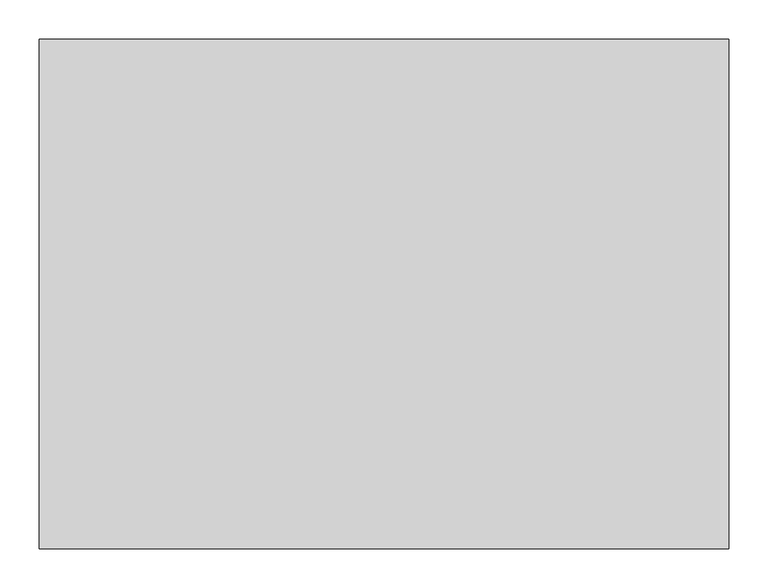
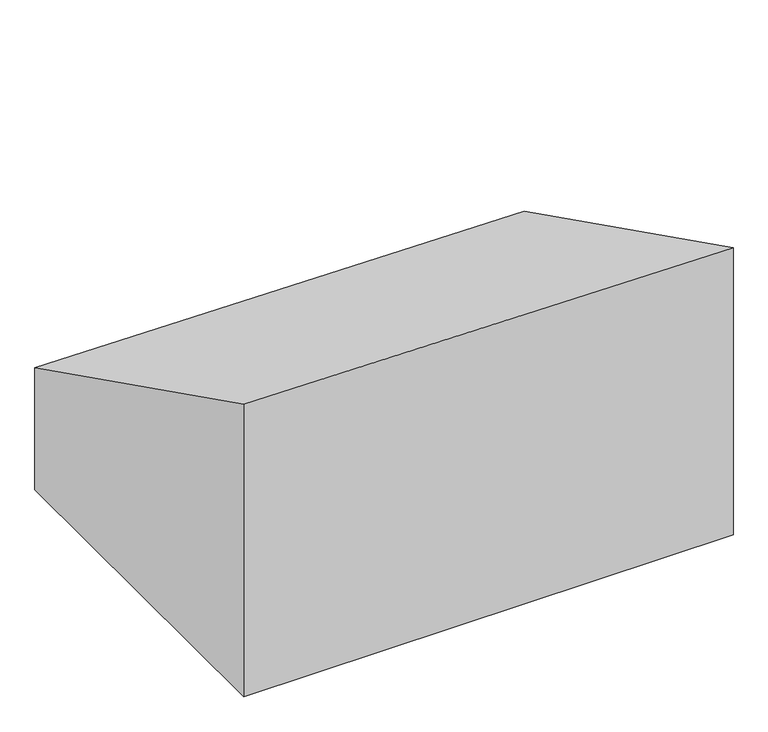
"""IFC4 building model written with IfcOpenShell, lengths in millimetres: proxy geometry, Murs caches C1a : Mus caches 1."""

import ifcopenshell
import ifcopenshell.guid

model = None  # the IFC model being written
_history = None  # IfcOwnerHistory: only IFC2X3 demands one
_inside = {}  # id of a spatial element -> (the spatial element, [elements in it])
_under = {}  # id of a project, library or spatial element -> (it, [spatial elements below it])
_declared = {}  # id of a project -> (the project, [libraries it declares])
_typed = {}  # id of a type object -> (the type object, [elements of that type])
_made_of = {}  # id of a material, layer set ... -> (it, [elements and type objects made of it])


def new_model(schema):
    """Start an empty IFC model of exactly this schema.

    Asked for "IFC4X3", IfcOpenShell would pick the latest addendum, in which some entities
    have other attributes; the version numbers below select the first issue.
    IFC2X3 requires an IfcOwnerHistory on every rooted entity: one is made here for all.
    """
    global model, _history
    if schema == "IFC4X3":
        model = ifcopenshell.file(schema_version=(4, 3, 0, 0))
    else:
        model = ifcopenshell.file(schema=schema)
    _inside.clear()
    _under.clear()
    _declared.clear()
    _typed.clear()
    _made_of.clear()
    _history = None
    if model.schema == "IFC2X3":
        org = make("IfcOrganization", Name="unknown")
        user = make(
            "IfcPersonAndOrganization",
            ThePerson=make("IfcPerson", FamilyName="unknown"),
            TheOrganization=org,
        )
        app = make(
            "IfcApplication",
            ApplicationDeveloper=org,
            Version="unknown",
            ApplicationFullName="unknown",
            ApplicationIdentifier="unknown",
        )
        _history = make(
            "IfcOwnerHistory",
            OwningUser=user,
            OwningApplication=app,
            ChangeAction="ADDED",
            CreationDate=0,
        )
    return model


def make(cls, **values):
    """One entity of the class cls with the attributes given. An attribute that is None is left unset."""
    return model.create_entity(
        cls, **{name: value for name, value in values.items() if value is not None}
    )


def rooted(cls, **values):
    """An entity with a GlobalId (a new one), such as an element, a storey or a relation."""
    return make(cls, GlobalId=ifcopenshell.guid.new(), OwnerHistory=_history, **values)


def si_unit(unit_type, name, prefix=None):
    """IfcSIUnit, for example si_unit("LENGTHUNIT", "METRE", prefix="MILLI")."""
    return make("IfcSIUnit", UnitType=unit_type, Prefix=prefix, Name=name)


def assignment(units):
    """IfcUnitAssignment: the units of a project."""
    return None if units is None else make("IfcUnitAssignment", Units=units)


def point(xyz):
    """IfcCartesianPoint."""
    return None if xyz is None else make("IfcCartesianPoint", Coordinates=xyz)


def direction(xyz):
    """IfcDirection."""
    return None if xyz is None else make("IfcDirection", DirectionRatios=xyz)


def frame(location, z_axis=None, x_axis=None):
    """IfcAxis2Placement3D, a coordinate frame: its origin and axes. An axis left out is left unset."""
    return make(
        "IfcAxis2Placement3D",
        Location=point(location),
        Axis=direction(z_axis),
        RefDirection=direction(x_axis),
    )


def origin():
    """The frame at (0, 0, 0) with its axes left unset."""
    return frame((0.0, 0.0, 0.0))


def place(relative_to, where):
    """IfcLocalPlacement: puts the frame where relative to a parent placement (None: the world)."""
    return make(
        "IfcLocalPlacement", PlacementRelTo=relative_to, RelativePlacement=where
    )


def context(
    kind, dimensions, precision=None, world=None, true_north=None, identifier=None
):
    """IfcGeometricRepresentationContext, for example the 3D "Model" context."""
    return make(
        "IfcGeometricRepresentationContext",
        ContextIdentifier=identifier,
        ContextType=kind,
        CoordinateSpaceDimension=dimensions,
        Precision=precision,
        WorldCoordinateSystem=world,
        TrueNorth=true_north,
    )


def project(units=None, contexts=None):
    """IfcProject with its units and contexts."""
    return rooted(
        "IfcProject",
        Name="project",
        RepresentationContexts=contexts,
        UnitsInContext=assignment(units),
    )


def spatial(cls, under=None, at=None, **own):
    """A site, building, storey or space (cls), placed at a placement, below another one or the project."""
    s = rooted(cls, ObjectPlacement=at, **own)
    if under is not None:
        _under.setdefault(under.id(), (under, []))[1].append(s)
    return s


def faces_of(points, faces, orient=None, outer=None):
    """IfcFace entities. A face is a list of loops; a loop is a list of indices into points, from 0.

    orient and outer hold one flag for each loop. By default every Orientation is true, the
    first loop of a face is its IfcFaceOuterBound and the others are IfcFaceBound.
    """
    made = []
    for i, loops in enumerate(faces):
        bounds = []
        for j, loop in enumerate(loops):
            is_outer = j == 0 if outer is None else outer[i][j]
            bounds.append(
                make(
                    "IfcFaceOuterBound" if is_outer else "IfcFaceBound",
                    Bound=make("IfcPolyLoop", Polygon=[points[k] for k in loop]),
                    Orientation=True if orient is None else orient[i][j],
                )
            )
        made.append(make("IfcFace", Bounds=bounds))
    return made


def faceted_brep(points, faces, orient=None, outer=None, voids=None):
    """IfcFacetedBrep: a solid bounded by flat faces; with voids (closed shells), ...WithVoids."""
    shared = [point(p) for p in points]
    hull = make("IfcClosedShell", CfsFaces=faces_of(shared, faces, orient, outer))
    if voids is None:
        return make("IfcFacetedBrep", Outer=hull)
    return make(
        "IfcFacetedBrepWithVoids",
        Outer=hull,
        Voids=[
            make(cls, CfsFaces=faces_of(shared, fs, o, b)) for cls, fs, o, b in voids
        ],
    )


def shape(context_of_items, identifier, shape_type, items):
    """IfcShapeRepresentation: the items that make up one representation, for example the "Body"."""
    return make(
        "IfcShapeRepresentation",
        ContextOfItems=context_of_items,
        RepresentationIdentifier=identifier,
        RepresentationType=shape_type,
        Items=items,
    )


def source(mapping_origin, context_of_items, identifier, shape_type, items):
    """IfcRepresentationMap: a shape defined once, which mapped items show again and again."""
    return make(
        "IfcRepresentationMap",
        MappingOrigin=mapping_origin,
        MappedRepresentation=shape(context_of_items, identifier, shape_type, items),
    )


def transform(
    local_origin,
    x_axis=None,
    y_axis=None,
    z_axis=None,
    scale=None,
    scale2=None,
    scale3=None,
    uniform=True,
):
    """IfcCartesianTransformationOperator3D, or its non-uniform kind. x_axis, y_axis, z_axis: its Axis1, 2, 3."""
    if uniform:
        return make(
            "IfcCartesianTransformationOperator3D",
            Axis1=direction(x_axis),
            Axis2=direction(y_axis),
            LocalOrigin=point(local_origin),
            Scale=scale,
            Axis3=direction(z_axis),
        )
    return make(
        "IfcCartesianTransformationOperator3DnonUniform",
        Axis1=direction(x_axis),
        Axis2=direction(y_axis),
        LocalOrigin=point(local_origin),
        Scale=scale,
        Axis3=direction(z_axis),
        Scale2=scale2,
        Scale3=scale3,
    )


def mapped(mapping_source, mapping_target):
    """IfcMappedItem: shows the shape of a source again, moved by a transform."""
    return make(
        "IfcMappedItem", MappingSource=mapping_source, MappingTarget=mapping_target
    )


def made_of(thing, what):
    """Note that an element or type object is made of a material, layer set ...; save() writes the relation."""
    if what is not None:
        _made_of.setdefault(what.id(), (what, []))[1].append(thing)
    return thing


def element(
    cls,
    number,
    at=None,
    inside=None,
    cuts=None,
    type_object=None,
    material=None,
    context=None,
    identifier="Body",
    shape_type=None,
    held_by="IfcProductDefinitionShape",
    body=None,
    shapes=None,
    **own,
):
    """One element of the class cls, such as IfcWall. Its Tag is "e" and its number.

    at: its placement. inside: the storey or other place that contains it. cuts: it is an
    opening in that element (IfcRelVoidsElement). A single representation is given by context,
    identifier, shape_type and body (its items); several are given by shapes. held_by: the class
    of the entity that holds the representations. save() writes the other relations.
    """
    e = rooted(cls, Tag="e%d" % number, ObjectPlacement=at, **own)
    if body is not None:
        shapes = [shape(context, identifier, shape_type, body)]
    if shapes is not None:
        e.Representation = make(held_by, Representations=shapes)
    if inside is not None:
        _inside.setdefault(inside.id(), (inside, []))[1].append(e)
    if cuts is not None:
        rooted(
            "IfcRelVoidsElement", RelatingBuildingElement=cuts, RelatedOpeningElement=e
        )
    if type_object is not None:
        _typed.setdefault(type_object.id(), (type_object, []))[1].append(e)
    return made_of(e, material)


def aggregate(whole, parts):
    """IfcRelAggregates: a whole, such as a stair, and the parts it consists of."""
    return rooted("IfcRelAggregates", RelatingObject=whole, RelatedObjects=parts)


def save(model, path):
    """Write the relations noted so far, then the file.

    IfcRelAggregates (storeys below a building ...), IfcRelContainedInSpatialStructure (elements
    in a storey), IfcRelDefinesByType, IfcRelAssociatesMaterial and IfcRelDeclares: one each for
    every whole, place, type object, material and project.
    """
    for whole, parts in _under.values():
        aggregate(whole, parts)
    for where, things in _inside.values():
        rooted(
            "IfcRelContainedInSpatialStructure",
            RelatedElements=things,
            RelatingStructure=where,
        )
    for kind, things in _typed.values():
        rooted("IfcRelDefinesByType", RelatedObjects=things, RelatingType=kind)
    for what, things in _made_of.values():
        rooted("IfcRelAssociatesMaterial", RelatedObjects=things, RelatingMaterial=what)
    for by, libraries in _declared.values():
        rooted("IfcRelDeclares", RelatingContext=by, RelatedDefinitions=libraries)
    model.write(path)


def generic_models_2a3ef5ed(model_context):
    return source(origin(), model_context, "Body", "Brep", [
        faceted_brep([(6880.0, -3000.0, 4496.0), (6880.0, -3000.0, 3950.0), (6880.0, -2350.0, 3950.0), (6880.0, -2350.0, 4171.0), (6000.0, -3000.0, 4506.0), (6000.0, -2350.0, 4181.0), (6000.0, -2350.0, 3950.0), (6000.0, -3000.0, 3950.0)], [[[0, 1, 2, 3]], [[4, 5, 6, 7]], [[4, 7, 1, 0]], [[7, 6, 2, 1]], [[6, 5, 3, 2]], [[5, 4, 0, 3]]]),
    ])


if __name__ == "__main__":
    model = new_model("IFC4")
    model_context = context("Model", 3, world=origin())
    ifc_project = project(units=[si_unit("LENGTHUNIT", "METRE", prefix="MILLI")], contexts=[model_context])
    site = spatial("IfcSite", under=ifc_project)
    building = spatial("IfcBuilding", under=site)
    placement = place(None, origin())
    generic_models_shape = generic_models_2a3ef5ed(model_context)
    element("IfcBuildingElementProxy", 1, Name="Murs caches C1a : Mus caches 1", ObjectType="Murs caches C1a : Mus caches 1", at=placement, inside=building, context=model_context, shape_type="MappedRepresentation", body=[
        mapped(generic_models_shape, transform((0.0, 0.0, 0.0), x_axis=(1.0, 0.0, 0.0), y_axis=(0.0, 1.0, 0.0), z_axis=(0.0, 0.0, 1.0))),
    ])
    save(model, "model.ifc")
